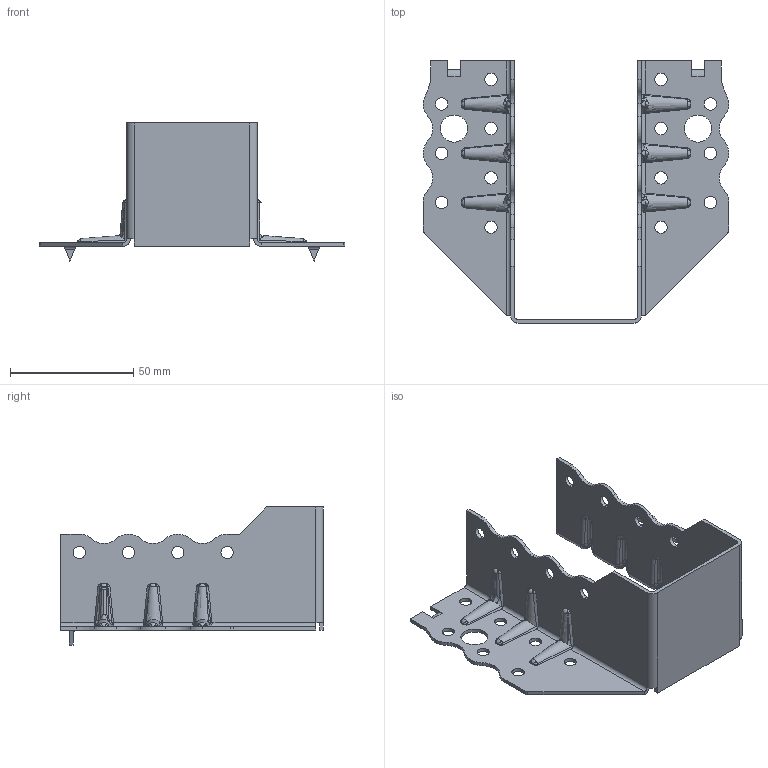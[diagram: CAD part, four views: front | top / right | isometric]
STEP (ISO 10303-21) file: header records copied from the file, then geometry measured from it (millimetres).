
FILE_DESCRIPTION (( 'STEP AP203' ), '1' );
FILE_NAME ('30603TOPK.STEP', '2020-04-07T08:22:33', ( '' ), ( '' ), 'SwSTEP 2.0', 'SolidWorks 2013', '' );
FILE_SCHEMA (( 'CONFIG_CONTROL_DESIGN' ));
Length unit declared in the file: millimetre
Products named in the file (1): 30603TOPK
Bounding box: 124 x 106.5 x 56 mm (x, y, z)
Volume: 24701.3 mm3; surface area: 34756.2 mm2
Topology: 1 solids, 1 shells, 472 faces, 1209 edges, 728 vertices
Faces by surface type: cylinder 178, bspline 174, plane 102, cone 18
Entity records: 28876 total; most frequent: CARTESIAN_POINT 18840, ORIENTED_EDGE 2396, DIRECTION 1510, EDGE_CURVE 1198, VERTEX_POINT 728, AXIS2_PLACEMENT_3D 525, EDGE_LOOP 520, B_SPLINE_CURVE_WITH_KNOTS 480
